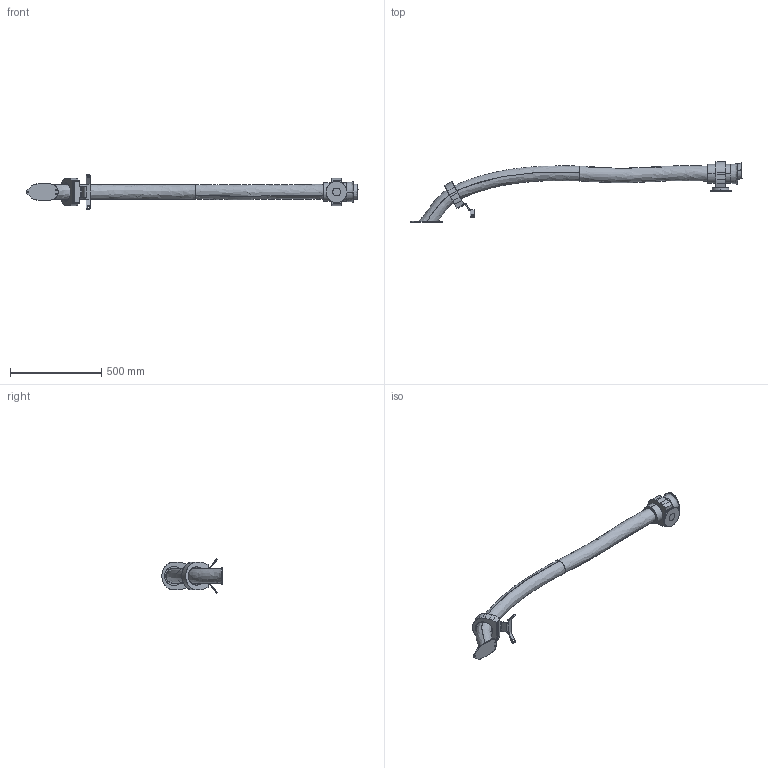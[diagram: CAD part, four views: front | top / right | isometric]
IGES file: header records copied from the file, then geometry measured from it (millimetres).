
Start section: SolidWorks IGES file using analytic representation for surfaces
Global section: file name: B:\DM\Robotics\SEROP_PROJ\Product Development\DevelopmentProjects\HD\3_Design PRMD\4_Struktur SAP o CAD\Lättmodeller\IRB8700-MH6_550-420\IRB8700-MH6_550-420_IRC5_IGES_j\IRB8700-MH6_550-420_IRC5_rev00_LINK4_CABLE.IGS; native system: SolidWorks 2014; preprocessor: SolidWorks 2014; author: sepehak; date: 150604.102509; units: millimetre
Bounding box: 1820.59 x 331.27 x 190.75 mm (x, y, z)
Surface area: 736613.1 mm2 (no closed solid volume)
Topology: 0 solids, 0 shells, 172 faces, 3263 edges, 3263 vertices
Faces by surface type: bspline 101, revolution 71
